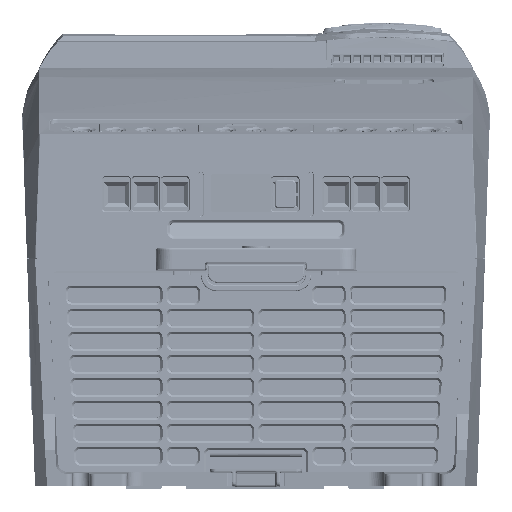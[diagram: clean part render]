
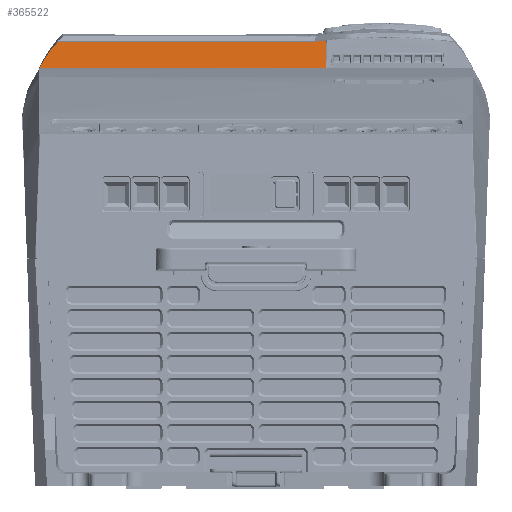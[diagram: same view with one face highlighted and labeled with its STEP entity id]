
A CAD part, front view. The second image highlights one B-rep face of the part: STEP entity #365522.
In plain terms, the highlighted planar face has unit normal (0, -0.996, 0.087).
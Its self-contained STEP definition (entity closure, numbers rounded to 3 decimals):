
#2157 = CARTESIAN_POINT ( 'NONE',  ( -60.467, -16.602, 75.021 ) ) ;
#11344 = DIRECTION ( 'NONE',  ( 0., 0.087, 0.996 ) ) ;
#16951 = CARTESIAN_POINT ( 'NONE',  ( 25.558, -16.601, 75.021 ) ) ;
#41533 = CARTESIAN_POINT ( 'NONE',  ( 31.675, -15.419, 88.535 ) ) ;
#50082 = CARTESIAN_POINT ( 'NONE',  ( -108.296, -16.602, 75.021 ) ) ;
#80902 = EDGE_CURVE ( 'NONE', #108897, #85799, #196776, .T. ) ;
#85799 = VERTEX_POINT ( 'NONE', #432782 ) ;
#86550 = B_SPLINE_CURVE_WITH_KNOTS ( 'NONE', 3,
 ( #163846, #310425, #291541, #307613 ),
 .UNSPECIFIED., .F., .F.,
 ( 4, 4 ),
 ( 0., 1. ),
 .UNSPECIFIED. ) ;
#90529 = VERTEX_POINT ( 'NONE', #293406 ) ;
#93895 = ORIENTED_EDGE ( 'NONE', *, *, #342434, .F. ) ;
#103557 = CARTESIAN_POINT ( 'NONE',  ( 35.189, -16.601, 75.021 ) ) ;
#108897 = VERTEX_POINT ( 'NONE', #486090 ) ;
#108987 = B_SPLINE_CURVE_WITH_KNOTS ( 'NONE', 3,
 ( #120954, #157970, #325430, #461569 ),
 .UNSPECIFIED., .F., .F.,
 ( 4, 4 ),
 ( 0., 1. ),
 .UNSPECIFIED. ) ;
#120954 = CARTESIAN_POINT ( 'NONE',  ( 35.023, -15.39, 88.867 ) ) ;
#153475 = B_SPLINE_CURVE_WITH_KNOTS ( 'NONE', 3,
 ( #430738, #2157, #183711, #356803 ),
 .UNSPECIFIED., .F., .F.,
 ( 4, 4 ),
 ( 0., 1. ),
 .UNSPECIFIED. ) ;
#157970 = CARTESIAN_POINT ( 'NONE',  ( 35.078, -15.794, 84.252 ) ) ;
#163846 = CARTESIAN_POINT ( 'NONE',  ( -99.117, -15.461, 88.067 ) ) ;
#169324 = CARTESIAN_POINT ( 'NONE',  ( 30.002, -15.436, 88.347 ) ) ;
#171861 = VERTEX_POINT ( 'NONE', #103557 ) ;
#183711 = CARTESIAN_POINT ( 'NONE',  ( -12.639, -16.602, 75.021 ) ) ;
#191522 = ORIENTED_EDGE ( 'NONE', *, *, #441257, .T. ) ;
#196776 = B_SPLINE_CURVE_WITH_KNOTS ( 'NONE', 3,
 ( #380881, #375321, #466061, #341082 ),
 .UNSPECIFIED., .F., .F.,
 ( 4, 4 ),
 ( 0., 1. ),
 .UNSPECIFIED. ) ;
#205765 = ORIENTED_EDGE ( 'NONE', *, *, #559231, .F. ) ;
#214168 = AXIS2_PLACEMENT_3D ( 'NONE', #16951, #224261, #11344 ) ;
#214681 = CARTESIAN_POINT ( 'NONE',  ( 35.023, -15.39, 88.867 ) ) ;
#222272 = EDGE_CURVE ( 'NONE', #352286, #459723, #557554, .T. ) ;
#224261 = DIRECTION ( 'NONE',  ( 0., 0.996, -0.087 ) ) ;
#231628 = ORIENTED_EDGE ( 'NONE', *, *, #222272, .F. ) ;
#291541 = CARTESIAN_POINT ( 'NONE',  ( -16.001, -15.443, 88.266 ) ) ;
#293406 = CARTESIAN_POINT ( 'NONE',  ( 35.023, -15.39, 88.867 ) ) ;
#307613 = CARTESIAN_POINT ( 'NONE',  ( 25.558, -15.434, 88.366 ) ) ;
#310425 = CARTESIAN_POINT ( 'NONE',  ( -57.559, -15.452, 88.166 ) ) ;
#313501 = CARTESIAN_POINT ( 'NONE',  ( -99.117, -15.461, 88.067 ) ) ;
#319083 = CARTESIAN_POINT ( 'NONE',  ( -105.966, -16.181, 79.836 ) ) ;
#325430 = CARTESIAN_POINT ( 'NONE',  ( 35.134, -16.198, 79.637 ) ) ;
#325903 = ORIENTED_EDGE ( 'NONE', *, *, #80902, .F. ) ;
#341082 = CARTESIAN_POINT ( 'NONE',  ( 30.002, -15.436, 88.347 ) ) ;
#342434 = EDGE_CURVE ( 'NONE', #85799, #90529, #496558, .T. ) ;
#352286 = VERTEX_POINT ( 'NONE', #50082 ) ;
#356803 = CARTESIAN_POINT ( 'NONE',  ( 35.189, -16.601, 75.021 ) ) ;
#365522 = ADVANCED_FACE ( 'NONE', ( #527865 ), #400161, .F. ) ;
#375321 = CARTESIAN_POINT ( 'NONE',  ( 27.039, -15.434, 88.36 ) ) ;
#380881 = CARTESIAN_POINT ( 'NONE',  ( 25.558, -15.434, 88.366 ) ) ;
#400161 = PLANE ( 'NONE',  #214168 ) ;
#401478 = CARTESIAN_POINT ( 'NONE',  ( -102.866, -15.795, 84.243 ) ) ;
#403961 = EDGE_CURVE ( 'NONE', #90529, #171861, #108987, .T. ) ;
#404974 = ORIENTED_EDGE ( 'NONE', *, *, #403961, .F. ) ;
#430334 = CARTESIAN_POINT ( 'NONE',  ( 33.349, -15.404, 88.708 ) ) ;
#430738 = CARTESIAN_POINT ( 'NONE',  ( -108.296, -16.602, 75.021 ) ) ;
#432782 = CARTESIAN_POINT ( 'NONE',  ( 30.002, -15.436, 88.347 ) ) ;
#441257 = EDGE_CURVE ( 'NONE', #352286, #171861, #153475, .T. ) ;
#459723 = VERTEX_POINT ( 'NONE', #559403 ) ;
#461569 = CARTESIAN_POINT ( 'NONE',  ( 35.189, -16.601, 75.021 ) ) ;
#466061 = CARTESIAN_POINT ( 'NONE',  ( 28.521, -15.435, 88.353 ) ) ;
#486090 = CARTESIAN_POINT ( 'NONE',  ( 25.558, -15.434, 88.366 ) ) ;
#486594 = CARTESIAN_POINT ( 'NONE',  ( -108.296, -16.602, 75.021 ) ) ;
#496558 = B_SPLINE_CURVE_WITH_KNOTS ( 'NONE', 3,
 ( #169324, #41533, #430334, #214681 ),
 .UNSPECIFIED., .F., .F.,
 ( 4, 4 ),
 ( 0., 1. ),
 .UNSPECIFIED. ) ;
#527680 = EDGE_LOOP ( 'NONE', ( #205765, #231628, #191522, #404974, #93895, #325903 ) ) ;
#527865 = FACE_OUTER_BOUND ( 'NONE', #527680, .T. ) ;
#557554 = B_SPLINE_CURVE_WITH_KNOTS ( 'NONE', 3,
 ( #486594, #319083, #401478, #313501 ),
 .UNSPECIFIED., .F., .F.,
 ( 4, 4 ),
 ( 0., 1. ),
 .UNSPECIFIED. ) ;
#559231 = EDGE_CURVE ( 'NONE', #459723, #108897, #86550, .T. ) ;
#559403 = CARTESIAN_POINT ( 'NONE',  ( -99.117, -15.461, 88.067 ) ) ;
